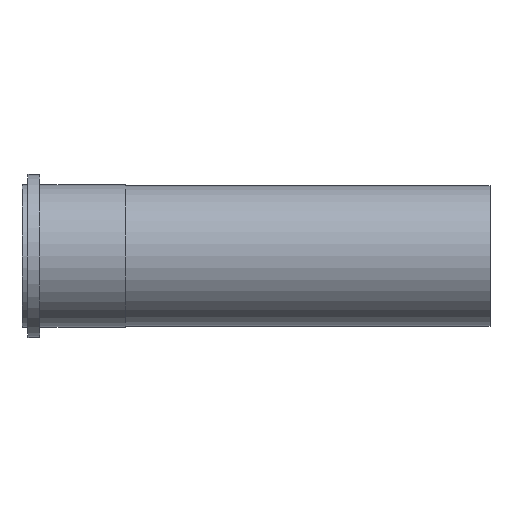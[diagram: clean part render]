
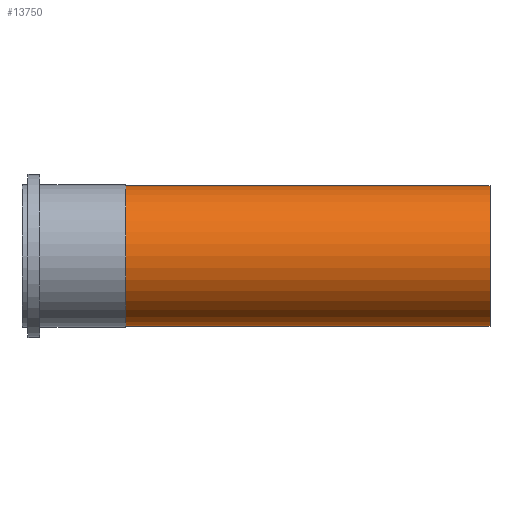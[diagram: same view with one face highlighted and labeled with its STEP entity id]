
A CAD part, front view. The second image highlights one B-rep face of the part: STEP entity #13750.
In plain terms, the highlighted cylindrical face has radius 37.465 mm (diameter 74.93 mm), a full revolution.
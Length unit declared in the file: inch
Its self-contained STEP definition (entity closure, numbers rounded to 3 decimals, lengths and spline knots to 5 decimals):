
#13719=CARTESIAN_POINT('',(2.18,1.475,0.0));
#13720=VERTEX_POINT('',#13719);
#13721=CARTESIAN_POINT('',(2.18,0.0,0.0));
#13722=DIRECTION('',(1.0,0.0,0.0));
#13723=DIRECTION('',(0.0,1.0,0.0));
#13724=AXIS2_PLACEMENT_3D('',#13721,#13722,#13723);
#13725=CIRCLE('',#13724,1.475);
#13726=EDGE_CURVE('',#13720,#13720,#13725,.T.);
#13731=CARTESIAN_POINT('',(6.01126,0.0,0.0));
#13732=DIRECTION('',(1.0,0.0,0.0));
#13733=DIRECTION('',(0.0,1.0,0.0));
#13734=AXIS2_PLACEMENT_3D('',#13731,#13732,#13733);
#13735=CYLINDRICAL_SURFACE('',#13734,1.475);
#13736=CARTESIAN_POINT('',(9.84252,1.475,0.0));
#13737=VERTEX_POINT('',#13736);
#13738=CARTESIAN_POINT('',(9.84252,0.0,0.0));
#13739=DIRECTION('',(1.0,0.0,0.0));
#13740=DIRECTION('',(0.0,1.0,0.0));
#13741=AXIS2_PLACEMENT_3D('',#13738,#13739,#13740);
#13742=CIRCLE('',#13741,1.475);
#13743=EDGE_CURVE('',#13737,#13737,#13742,.T.);
#13744=ORIENTED_EDGE('',*,*,#13743,.F.);
#13745=EDGE_LOOP('',(#13744));
#13746=FACE_OUTER_BOUND('',#13745,.T.);
#13747=ORIENTED_EDGE('',*,*,#13726,.T.);
#13748=EDGE_LOOP('',(#13747));
#13749=FACE_BOUND('',#13748,.T.);
#13750=ADVANCED_FACE('',(#13746,#13749),#13735,.T.);
